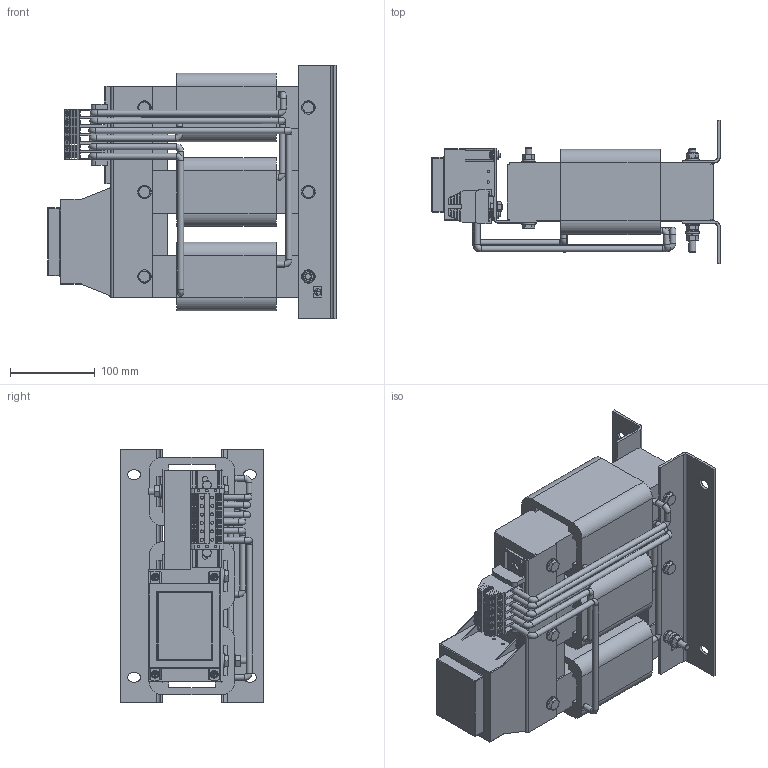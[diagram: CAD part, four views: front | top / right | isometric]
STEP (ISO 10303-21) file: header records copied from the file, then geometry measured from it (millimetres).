
FILE_DESCRIPTION((''),'2;1');
FILE_NAME('C:\Users\Samuel.Meier\Desktop\STEPPS\FN5040-48-85.stp','2016-04-25T17:52:29',('samuel.meier'),(''),'Autodesk Inventor 2013','Autodesk Inventor 2013','');
FILE_SCHEMA(('CONFIG_CONTROL_DESIGN'));
Length unit declared in the file: millimetre
Products named in the file (1): FN5040-48-85
Bounding box: 341.35 x 169 x 300 mm (x, y, z)
Surface area: 783980.2 mm2 (no closed solid volume)
Topology: 0 solids, 11 shells, 1702 faces, 4553 edges, 2946 vertices
Faces by surface type: plane 1123, cylinder 332, bspline 112, cone 86, torus 33, sphere 16
Full cylindrical faces by diameter (mm): 3 x9, 3.5 x60, 4.6 x4, 5 x16, 6 x4, 6.2 x4, 7 x27, 7.323 x6, 7.9 x1, 8 x14, 8.3 x4, 8.4 x10, 8.5 x2, 9 x9, 9.904 x2, 10 x9, 11 x9, 11.4 x6, 11.8 x1, 16 x10
Entity records: 54248 total; most frequent: CARTESIAN_POINT 11492, ORIENTED_EDGE 8396, DIRECTION 7881, EDGE_CURVE 4206, VERTEX_POINT 2862, VECTOR 2831, LINE 2831, AXIS2_PLACEMENT_3D 2525
